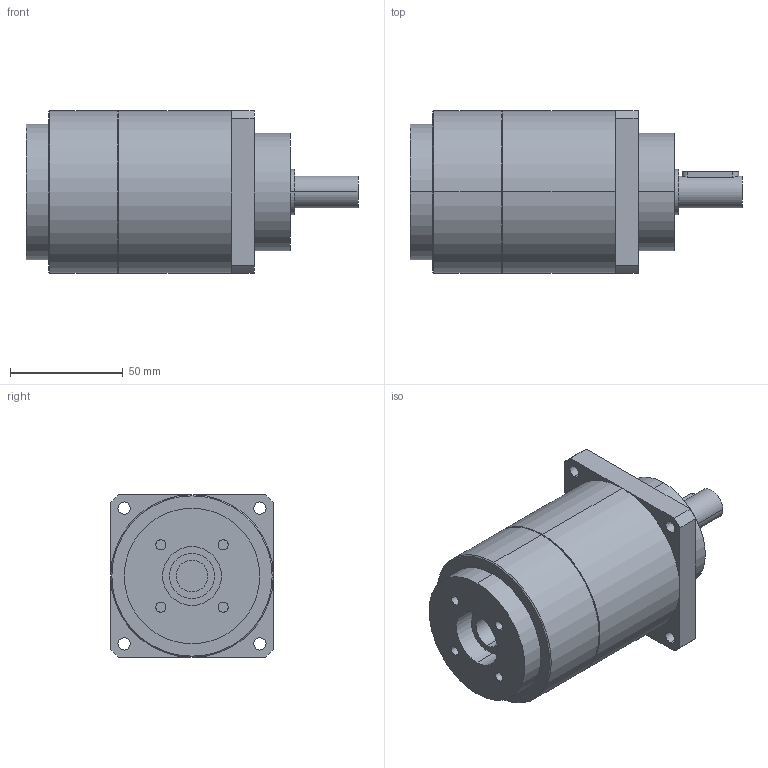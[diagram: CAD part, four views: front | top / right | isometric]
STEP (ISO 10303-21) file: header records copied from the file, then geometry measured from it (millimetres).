
FILE_DESCRIPTION(('CoCreate Modeling STEP Export'),'2;1');
FILE_NAME('GPT75_ig-9-12-16-20-25-28-35-40-50-70-100_14_B5T_14_P10.stp','2014-08-27T13:37:48',(''),(''),'CoCreate Modeling STEP processor for AP214 (Solid Model)','CoCreate Modeling 16.00C 25-Feb-2009 (C) Parametric Technology GmbH','');
FILE_SCHEMA(('AUTOMOTIVE_DESIGN { 1 0 10303 214 1 1 1 1 }'));
Length unit declared in the file: millimetre
Products named in the file (2): GPT75_ig-9-12-16-20-25-28-35-40-50-70-100_14_B5T_14_P10
Assembly tree (1 placements, depth 2):
  GPT75_ig-9-12-16-20-25-28-35-40-50-70-100_14_B5T_14_P10
    GPT75_ig-9-12-16-20-25-28-35-40-50-70-100_14_B5T_14_P10
Bounding box: 147 x 72 x 72 mm (x, y, z)
Volume: 437830.1 mm3; surface area: 41218 mm2
Topology: 1 solids, 1 shells, 72 faces, 164 edges, 107 vertices
Faces by surface type: cylinder 42, plane 26, cone 4
Entity records: 2171 total; most frequent: CARTESIAN_POINT 663, ORIENTED_EDGE 328, DIRECTION 268, EDGE_CURVE 164, VERTEX_POINT 107, AXIS2_PLACEMENT_3D 100, EDGE_LOOP 93, FACE_OUTER_BOUND 72
